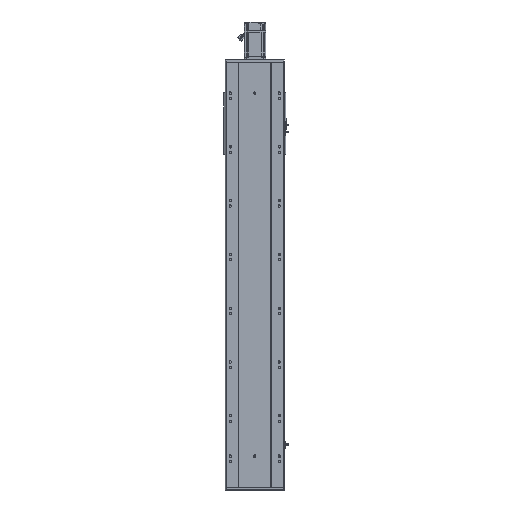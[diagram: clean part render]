
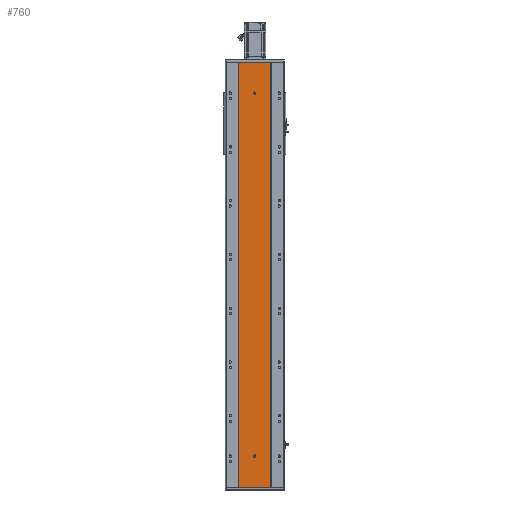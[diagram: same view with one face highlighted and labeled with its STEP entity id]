
A CAD part, front view. The second image highlights one B-rep face of the part: STEP entity #760.
In plain terms, the highlighted planar face has unit normal (0, -1, 0).
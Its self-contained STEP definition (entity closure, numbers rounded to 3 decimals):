
#628 = EDGE_CURVE ( 'NONE', #8932, #18865, #43555, .T. ) ;
#760 = ADVANCED_FACE ( 'NONE', ( #15571, #40799, #4744 ), #51110, .F. ) ;
#1516 = CARTESIAN_POINT ( 'NONE',  ( -4., 0., 116.5 ) ) ;
#2857 = CARTESIAN_POINT ( 'NONE',  ( 0., 0., 119.5 ) ) ;
#2880 = CIRCLE ( 'NONE', #20515, 4. ) ;
#3170 = VERTEX_POINT ( 'NONE', #29895 ) ;
#3866 = LINE ( 'NONE', #34545, #12864 ) ;
#4744 = FACE_OUTER_BOUND ( 'NONE', #27944, .T. ) ;
#4812 = DIRECTION ( 'NONE',  ( 1., 0., 0. ) ) ;
#5087 = EDGE_CURVE ( 'NONE', #18865, #58715, #59211, .T. ) ;
#7939 = ORIENTED_EDGE ( 'NONE', *, *, #28364, .F. ) ;
#8210 = VERTEX_POINT ( 'NONE', #43471 ) ;
#8521 = AXIS2_PLACEMENT_3D ( 'NONE', #64747, #30317, #69532 ) ;
#8928 = CARTESIAN_POINT ( 'NONE',  ( -60., 0., 0. ) ) ;
#8932 = VERTEX_POINT ( 'NONE', #66727 ) ;
#8973 = ORIENTED_EDGE ( 'NONE', *, *, #11002, .T. ) ;
#9224 = AXIS2_PLACEMENT_3D ( 'NONE', #45965, #29629, #51750 ) ;
#9669 = EDGE_CURVE ( 'NONE', #74323, #22734, #57216, .T. ) ;
#11002 = EDGE_CURVE ( 'NONE', #15288, #22734, #3866, .T. ) ;
#12864 = VECTOR ( 'NONE', #22990, 1000. ) ;
#13218 = CARTESIAN_POINT ( 'NONE',  ( 60., 0., 1582. ) ) ;
#15288 = VERTEX_POINT ( 'NONE', #8928 ) ;
#15571 = FACE_BOUND ( 'NONE', #26015, .T. ) ;
#15576 = LINE ( 'NONE', #21163, #73159 ) ;
#15927 = EDGE_CURVE ( 'NONE', #58715, #3170, #58731, .T. ) ;
#16245 = CARTESIAN_POINT ( 'NONE',  ( 0., 0., 1468. ) ) ;
#17161 = DIRECTION ( 'NONE',  ( 0., -1., 0. ) ) ;
#17774 = CARTESIAN_POINT ( 'NONE',  ( 0., 0., 1464. ) ) ;
#18069 = ORIENTED_EDGE ( 'NONE', *, *, #40494, .F. ) ;
#18865 = VERTEX_POINT ( 'NONE', #1516 ) ;
#18989 = EDGE_CURVE ( 'NONE', #3170, #8210, #39006, .T. ) ;
#19095 = ORIENTED_EDGE ( 'NONE', *, *, #18989, .F. ) ;
#19512 = ORIENTED_EDGE ( 'NONE', *, *, #57647, .T. ) ;
#20515 = AXIS2_PLACEMENT_3D ( 'NONE', #16245, #44947, #50973 ) ;
#21055 = DIRECTION ( 'NONE',  ( 0., 0., -1. ) ) ;
#21163 = CARTESIAN_POINT ( 'NONE',  ( -60., 0., 1582. ) ) ;
#22417 = CARTESIAN_POINT ( 'NONE',  ( 0., 0., 112.5 ) ) ;
#22453 = CARTESIAN_POINT ( 'NONE',  ( 0., 0., 116.5 ) ) ;
#22734 = VERTEX_POINT ( 'NONE', #67600 ) ;
#22897 = CIRCLE ( 'NONE', #27262, 4. ) ;
#22990 = DIRECTION ( 'NONE',  ( 1., 0., 0. ) ) ;
#24678 = DIRECTION ( 'NONE',  ( 0., 0., 1. ) ) ;
#25689 = VECTOR ( 'NONE', #52267, 1000. ) ;
#26015 = EDGE_LOOP ( 'NONE', ( #7939, #64185 ) ) ;
#26026 = DIRECTION ( 'NONE',  ( 0., 0., -1. ) ) ;
#27262 = AXIS2_PLACEMENT_3D ( 'NONE', #2857, #43650, #26026 ) ;
#27944 = EDGE_LOOP ( 'NONE', ( #8973, #71542, #61048, #19512 ) ) ;
#28021 = DIRECTION ( 'NONE',  ( 0., 0., -1. ) ) ;
#28287 = CIRCLE ( 'NONE', #9224, 4. ) ;
#28364 = EDGE_CURVE ( 'NONE', #55328, #55349, #28287, .T. ) ;
#29629 = DIRECTION ( 'NONE',  ( 0., -1., 0. ) ) ;
#29651 = CARTESIAN_POINT ( 'NONE',  ( 60., 0., 1582. ) ) ;
#29895 = CARTESIAN_POINT ( 'NONE',  ( 4., 0., 116.5 ) ) ;
#30317 = DIRECTION ( 'NONE',  ( 0., -1., 0. ) ) ;
#34485 = DIRECTION ( 'NONE',  ( 0., 0., 1. ) ) ;
#34545 = CARTESIAN_POINT ( 'NONE',  ( -60., 0., 0. ) ) ;
#34562 = LINE ( 'NONE', #72616, #40001 ) ;
#39006 = LINE ( 'NONE', #60110, #56115 ) ;
#40001 = VECTOR ( 'NONE', #21055, 1000. ) ;
#40494 = EDGE_CURVE ( 'NONE', #8210, #8932, #22897, .T. ) ;
#40783 = ORIENTED_EDGE ( 'NONE', *, *, #628, .F. ) ;
#40799 = FACE_BOUND ( 'NONE', #66921, .T. ) ;
#43055 = AXIS2_PLACEMENT_3D ( 'NONE', #62178, #68458, #34485 ) ;
#43471 = CARTESIAN_POINT ( 'NONE',  ( 4., 0., 119.5 ) ) ;
#43555 = LINE ( 'NONE', #67718, #56172 ) ;
#43650 = DIRECTION ( 'NONE',  ( 0., -1., 0. ) ) ;
#44947 = DIRECTION ( 'NONE',  ( 0., -1., 0. ) ) ;
#45651 = VERTEX_POINT ( 'NONE', #54347 ) ;
#45965 = CARTESIAN_POINT ( 'NONE',  ( 0., 0., 1468. ) ) ;
#47114 = AXIS2_PLACEMENT_3D ( 'NONE', #22453, #17161, #28021 ) ;
#50565 = EDGE_CURVE ( 'NONE', #55349, #55328, #2880, .T. ) ;
#50973 = DIRECTION ( 'NONE',  ( 0., 0., -1. ) ) ;
#51110 = PLANE ( 'NONE',  #43055 ) ;
#51750 = DIRECTION ( 'NONE',  ( 0., 0., -1. ) ) ;
#52252 = CARTESIAN_POINT ( 'NONE',  ( 0., 0., 1472. ) ) ;
#52267 = DIRECTION ( 'NONE',  ( 0., 0., -1. ) ) ;
#54347 = CARTESIAN_POINT ( 'NONE',  ( -60., 0., 1582. ) ) ;
#55328 = VERTEX_POINT ( 'NONE', #17774 ) ;
#55349 = VERTEX_POINT ( 'NONE', #52252 ) ;
#56115 = VECTOR ( 'NONE', #24678, 1000. ) ;
#56172 = VECTOR ( 'NONE', #61693, 1000. ) ;
#57216 = LINE ( 'NONE', #29651, #25689 ) ;
#57647 = EDGE_CURVE ( 'NONE', #45651, #15288, #34562, .T. ) ;
#58522 = EDGE_CURVE ( 'NONE', #45651, #74323, #15576, .T. ) ;
#58715 = VERTEX_POINT ( 'NONE', #22417 ) ;
#58731 = CIRCLE ( 'NONE', #47114, 4. ) ;
#59211 = CIRCLE ( 'NONE', #8521, 4. ) ;
#60110 = CARTESIAN_POINT ( 'NONE',  ( 4., 0., 116.5 ) ) ;
#60133 = ORIENTED_EDGE ( 'NONE', *, *, #15927, .F. ) ;
#61048 = ORIENTED_EDGE ( 'NONE', *, *, #58522, .F. ) ;
#61693 = DIRECTION ( 'NONE',  ( 0., 0., -1. ) ) ;
#62178 = CARTESIAN_POINT ( 'NONE',  ( -60., 0., 1582. ) ) ;
#64185 = ORIENTED_EDGE ( 'NONE', *, *, #50565, .F. ) ;
#64747 = CARTESIAN_POINT ( 'NONE',  ( 0., 0., 116.5 ) ) ;
#66570 = ORIENTED_EDGE ( 'NONE', *, *, #5087, .F. ) ;
#66727 = CARTESIAN_POINT ( 'NONE',  ( -4., 0., 119.5 ) ) ;
#66921 = EDGE_LOOP ( 'NONE', ( #19095, #60133, #66570, #40783, #18069 ) ) ;
#67600 = CARTESIAN_POINT ( 'NONE',  ( 60., 0., 0. ) ) ;
#67718 = CARTESIAN_POINT ( 'NONE',  ( -4., 0., 116.5 ) ) ;
#68458 = DIRECTION ( 'NONE',  ( 0., 1., 0. ) ) ;
#69532 = DIRECTION ( 'NONE',  ( 0., 0., -1. ) ) ;
#71542 = ORIENTED_EDGE ( 'NONE', *, *, #9669, .F. ) ;
#72616 = CARTESIAN_POINT ( 'NONE',  ( -60., 0., 1582. ) ) ;
#73159 = VECTOR ( 'NONE', #4812, 1000. ) ;
#74323 = VERTEX_POINT ( 'NONE', #13218 ) ;
